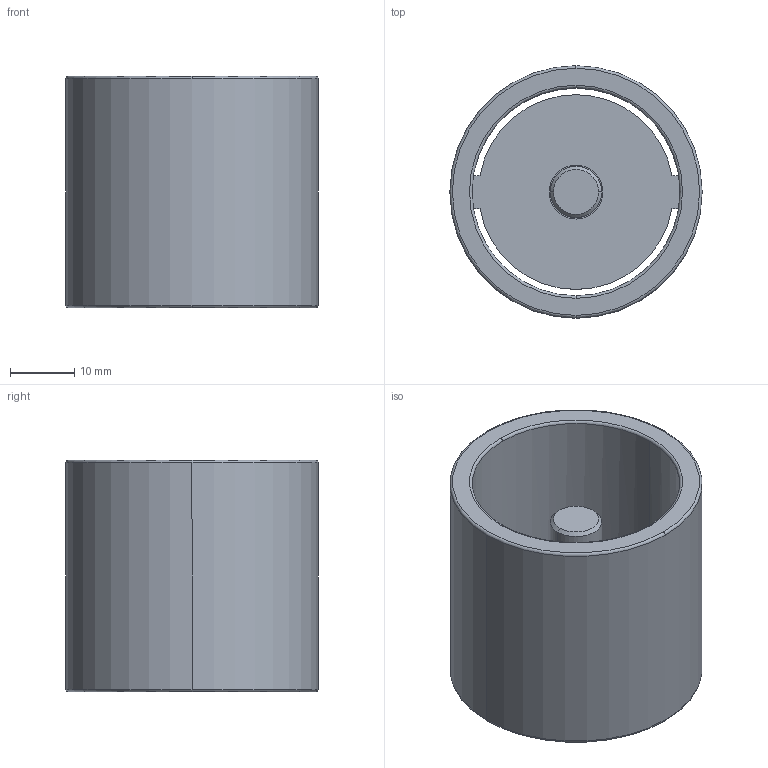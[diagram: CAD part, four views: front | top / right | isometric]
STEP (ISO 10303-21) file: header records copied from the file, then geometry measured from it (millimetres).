
FILE_DESCRIPTION((''),'2;1');
FILE_NAME('C11_032_036.stp','2009-01-12T09:24:32',(''),(''),'Mechanical Desktop 2009','Mechanical Desktop 2009',', , ');
FILE_SCHEMA(('CONFIG_CONTROL_DESIGN'));
Length unit declared in the file: millimetre
Products named in the file (2): Product; blmdl1
Assembly tree (1 placements, depth 2):
  Product
    blmdl1
Bounding box: 39.25 x 39.25 x 36 mm (x, y, z)
Volume: 17067.9 mm3; surface area: 11548.4 mm2
Topology: 3 solids, 3 shells, 44 faces, 110 edges, 74 vertices
Faces by surface type: cylinder 16, plane 16, torus 10, cone 2
Entity records: 1507 total; most frequent: CARTESIAN_POINT 274, DIRECTION 266, ORIENTED_EDGE 220, AXIS2_PLACEMENT_3D 114, EDGE_CURVE 110, VERTEX_POINT 74, CIRCLE 68, EDGE_LOOP 50
